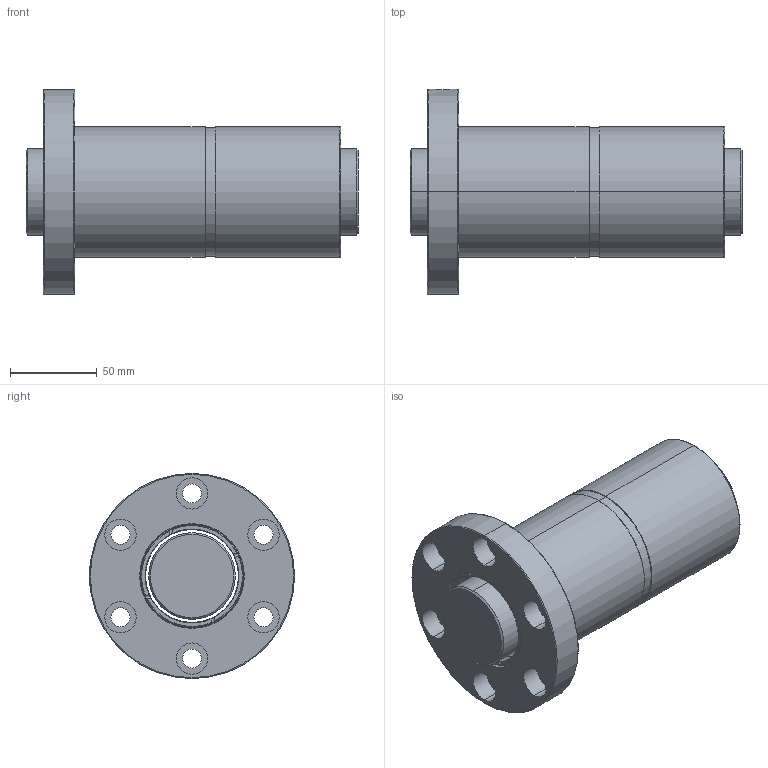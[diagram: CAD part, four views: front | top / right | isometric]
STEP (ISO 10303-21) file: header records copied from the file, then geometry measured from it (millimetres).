
FILE_DESCRIPTION (( 'STEP AP203' ), '1' );
FILE_NAME ('DFZR05010T4N-C.STEP', '2020-06-18T01:24:59', ( '' ), ( '' ), 'SwSTEP 2.0', 'SolidWorks 2013', '' );
FILE_SCHEMA (( 'CONFIG_CONTROL_DESIGN' ));
Length unit declared in the file: millimetre
Products named in the file (1): DFZR05010T4N-C
Bounding box: 191 x 118 x 118 mm (x, y, z)
Volume: 837486.6 mm3; surface area: 132370.2 mm2
Topology: 2 solids, 2 shells, 131 faces, 314 edges, 198 vertices
Faces by surface type: cylinder 74, plane 29, torus 24, cone 4
Entity records: 4389 total; most frequent: CARTESIAN_POINT 1154, DIRECTION 716, ORIENTED_EDGE 628, AXIS2_PLACEMENT_3D 316, EDGE_CURVE 314, VERTEX_POINT 198, CIRCLE 184, EDGE_LOOP 160
